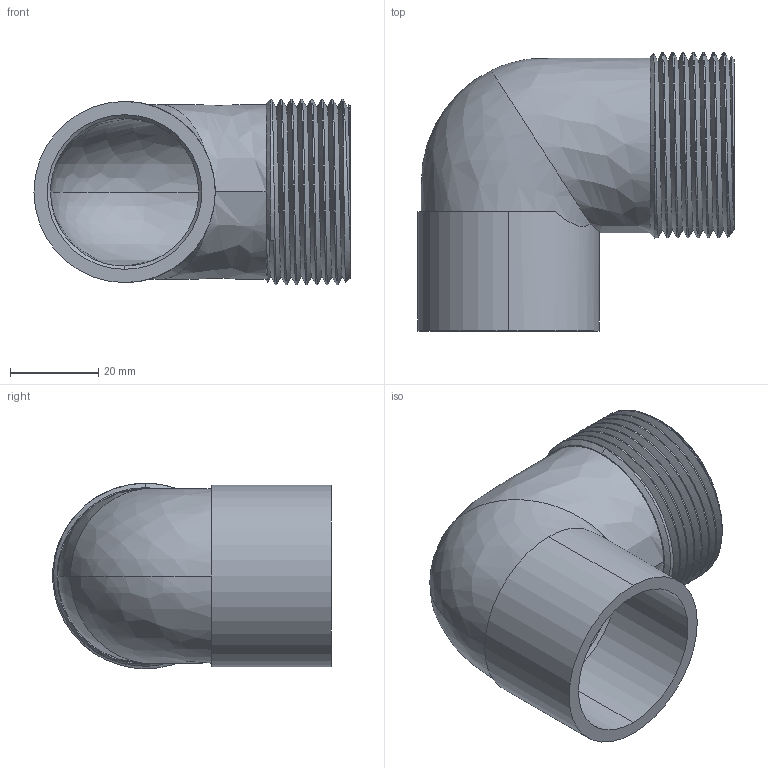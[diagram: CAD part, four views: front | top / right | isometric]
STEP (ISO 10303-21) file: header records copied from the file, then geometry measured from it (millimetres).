
FILE_DESCRIPTION (( 'STEP AP214' ), '1' );
FILE_NAME ('4092g 35X1寸2.STEP', '2013-09-23T23:39:19', ( '微软用户' ), ( '微软中国' ), 'SwSTEP 2.0', 'SolidWorks 2008', '' );
FILE_SCHEMA (( 'AUTOMOTIVE_DESIGN' ));
Length unit declared in the file: millimetre
Products named in the file (1): 4092g 35X1渡2
Bounding box: 71.5 x 62.94 x 42 mm (x, y, z)
Volume: 31800.4 mm3; surface area: 23480.7 mm2
Topology: 1 solids, 1 shells, 40 faces, 111 edges, 74 vertices
Faces by surface type: cylinder 20, bspline 8, cone 7, plane 5
Entity records: 3403 total; most frequent: CARTESIAN_POINT 2512, ORIENTED_EDGE 222, DIRECTION 133, EDGE_CURVE 111, VERTEX_POINT 74, AXIS2_PLACEMENT_3D 52, EDGE_LOOP 43, FACE_OUTER_BOUND 40
